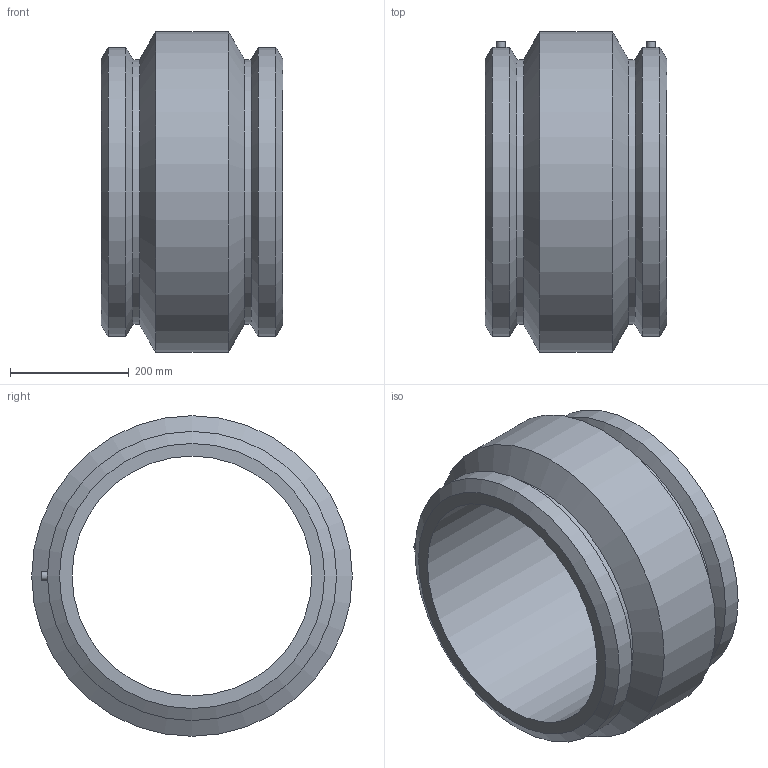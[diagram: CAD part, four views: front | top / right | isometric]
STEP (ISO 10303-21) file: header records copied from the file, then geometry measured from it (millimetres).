
FILE_DESCRIPTION(/* description */ ('PLASSON COUPLER 16''''DIPS'),/* implementation_level */ '2;1');
FILE_NAME(/* name */ 'C:\Dropbox\KIMPROJECTS-Inventor 2019\99-16-3568-Processing Inch\ASTM ElectroFusion 2021\5901D\5901D003160.ipt.stp',/* time_stamp */ '2021-08-30T09:48:59+03:00',/* author */ ('KIM'),/* organization */ (''),/* preprocessor_version */ 'ST-DEVELOPER v17.2',/* originating_system */ 'Autodesk Inventor 2019',/* authorisation */ '');
FILE_SCHEMA (('AUTOMOTIVE_DESIGN { 1 0 10303 214 3 1 1 }'));
Length unit declared in the file: inch
Products named in the file (1): 5901D003160
Bounding box: 306.83 x 541.02 x 541.02 mm (x, y, z)
Volume: 22061859.6 mm3; surface area: 1087929.6 mm2
Topology: 1 solids, 1 shells, 28 faces, 66 edges, 46 vertices
Faces by surface type: cylinder 12, plane 8, cone 6, bspline 2
Full cylindrical faces by diameter (mm): 4 x2, 10 x2, 15 x2, 404.6 x1, 447.04 x2, 487.68 x2, 541.02 x1
Entity records: 1250 total; most frequent: CARTESIAN_POINT 536, DIRECTION 146, ORIENTED_EDGE 132, EDGE_CURVE 66, AXIS2_PLACEMENT_3D 63, VERTEX_POINT 46, CIRCLE 36, EDGE_LOOP 36
